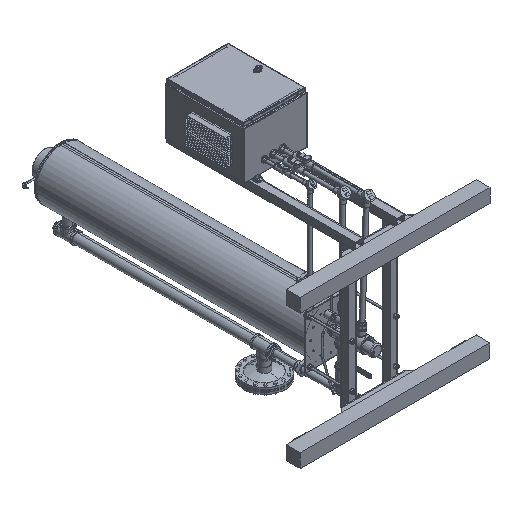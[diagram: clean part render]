
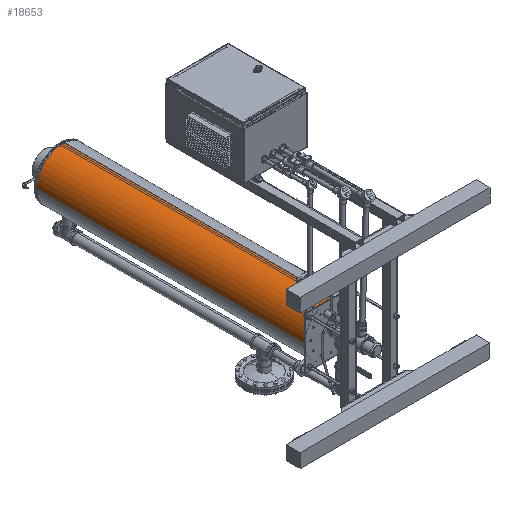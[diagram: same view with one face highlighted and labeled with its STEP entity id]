
A CAD part, isometric view. The second image highlights one B-rep face of the part: STEP entity #18653.
In plain terms, the highlighted cylindrical face has radius 166.116 mm (diameter 332.232 mm), a partial arc.
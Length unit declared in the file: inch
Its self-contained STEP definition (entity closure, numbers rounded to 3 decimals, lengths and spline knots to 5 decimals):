
#18653 = ADVANCED_FACE ( 'NONE', ( #30142 ), #30148, .T. ) ;
#24958 = VECTOR ( 'NONE', #48003, 39.37008 ) ;
#24965 = CIRCLE ( 'NONE', #24968, 6.54 ) ;
#24968 = AXIS2_PLACEMENT_3D ( 'NONE', #48007, #48008, #48009 ) ;
#24970 = CIRCLE ( 'NONE', #24974, 6.54 ) ;
#24972 = VECTOR ( 'NONE', #48021, 39.37008 ) ;
#24974 = AXIS2_PLACEMENT_3D ( 'NONE', #48013, #48014, #48015 ) ;
#30121 = DIRECTION ( 'NONE',  ( 0., -1., 0. ) ) ;
#30142 = FACE_OUTER_BOUND ( 'NONE', #94489, .T. ) ;
#30144 = CARTESIAN_POINT ( 'NONE',  ( 0., 68., 0. ) ) ;
#30148 = CYLINDRICAL_SURFACE ( 'NONE', #35734, 6.54 ) ;
#30150 = DIRECTION ( 'NONE',  ( 1., 0., 0. ) ) ;
#35734 = AXIS2_PLACEMENT_3D ( 'NONE', #30144, #30121, #30150 ) ;
#37850 = EDGE_CURVE ( 'NONE', #56755, #56754, #47999, .T. ) ;
#37854 = EDGE_CURVE ( 'NONE', #56755, #56766, #24965, .T. ) ;
#37859 = EDGE_CURVE ( 'NONE', #56754, #56753, #24970, .T. ) ;
#37864 = EDGE_CURVE ( 'NONE', #56766, #56753, #48016, .T. ) ;
#47996 = CARTESIAN_POINT ( 'NONE',  ( -6.54, 68., 0. ) ) ;
#47999 = LINE ( 'NONE', #47996, #24958 ) ;
#48003 = DIRECTION ( 'NONE',  ( 0., -1., 0. ) ) ;
#48007 = CARTESIAN_POINT ( 'NONE',  ( 0., 68., 0. ) ) ;
#48008 = DIRECTION ( 'NONE',  ( 0., 1., 0. ) ) ;
#48009 = DIRECTION ( 'NONE',  ( -1., 0., 0. ) ) ;
#48013 = CARTESIAN_POINT ( 'NONE',  ( 0., 0., 0. ) ) ;
#48014 = DIRECTION ( 'NONE',  ( 0., 1., 0. ) ) ;
#48015 = DIRECTION ( 'NONE',  ( -1., 0., 0. ) ) ;
#48016 = LINE ( 'NONE', #48017, #24972 ) ;
#48017 = CARTESIAN_POINT ( 'NONE',  ( 0.47289, 68., 6.52288 ) ) ;
#48021 = DIRECTION ( 'NONE',  ( 0., -1., 0. ) ) ;
#56753 = VERTEX_POINT ( 'NONE', #74622 ) ;
#56754 = VERTEX_POINT ( 'NONE', #74623 ) ;
#56755 = VERTEX_POINT ( 'NONE', #74624 ) ;
#56766 = VERTEX_POINT ( 'NONE', #74635 ) ;
#74622 = CARTESIAN_POINT ( 'NONE',  ( 0.47289, 0., 6.52288 ) ) ;
#74623 = CARTESIAN_POINT ( 'NONE',  ( -6.54, 0., 0. ) ) ;
#74624 = CARTESIAN_POINT ( 'NONE',  ( -6.54, 68., 0. ) ) ;
#74635 = CARTESIAN_POINT ( 'NONE',  ( 0.47289, 68., 6.52288 ) ) ;
#87479 = ORIENTED_EDGE ( 'NONE', *, *, #37850, .T. ) ;
#87505 = ORIENTED_EDGE ( 'NONE', *, *, #37854, .F. ) ;
#87506 = ORIENTED_EDGE ( 'NONE', *, *, #37859, .T. ) ;
#87507 = ORIENTED_EDGE ( 'NONE', *, *, #37864, .F. ) ;
#94489 = EDGE_LOOP ( 'NONE', ( #87505, #87479, #87506, #87507 ) ) ;
